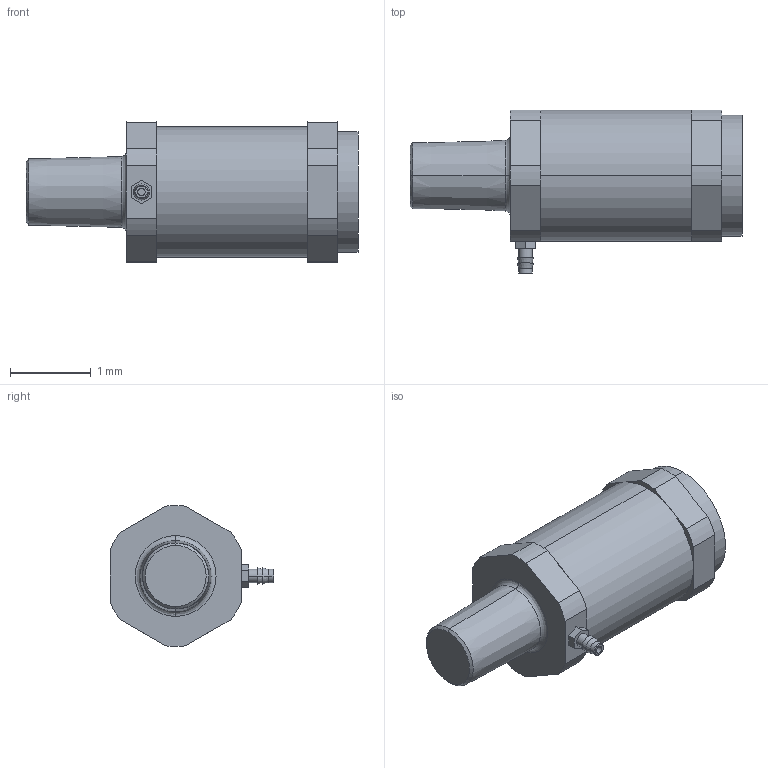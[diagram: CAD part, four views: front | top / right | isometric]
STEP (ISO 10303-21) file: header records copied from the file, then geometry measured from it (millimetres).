
FILE_DESCRIPTION((''),'2;1');
FILE_NAME('UE4.stp','2017-11-07T13:24:52',(''),(''),'Mechanical Desktop 2011','Mechanical Desktop 2011',', , ');
FILE_SCHEMA(('CONFIG_CONTROL_DESIGN'));
Length unit declared in the file: millimetre
Products named in the file (1): Product
Bounding box: 4.12 x 2.03 x 1.75 mm (x, y, z)
Volume: 6.7 mm3; surface area: 35.1 mm2
Topology: 5 solids, 5 shells, 66 faces, 148 edges, 96 vertices
Faces by surface type: plane 32, cylinder 22, cone 8, torus 2, bspline 2
Entity records: 2023 total; most frequent: CARTESIAN_POINT 399, DIRECTION 342, ORIENTED_EDGE 296, EDGE_CURVE 148, AXIS2_PLACEMENT_3D 129, VERTEX_POINT 96, VECTOR 84, LINE 84
